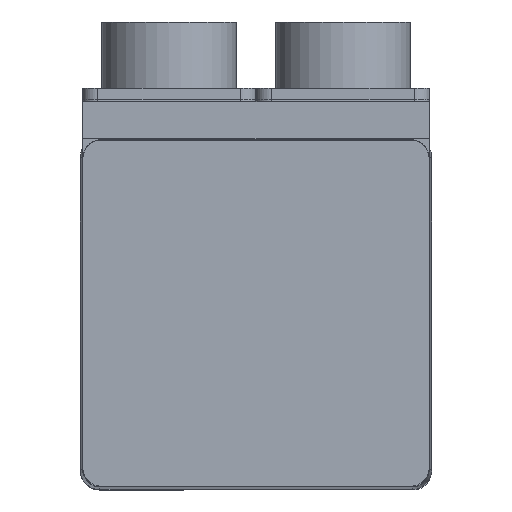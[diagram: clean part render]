
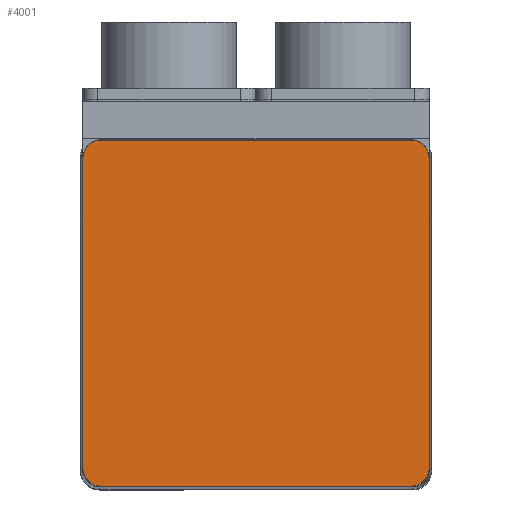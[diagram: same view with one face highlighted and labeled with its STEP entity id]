
A CAD part, top view. The second image highlights one B-rep face of the part: STEP entity #4001.
In plain terms, the highlighted planar face has unit normal (0, 0, 1).
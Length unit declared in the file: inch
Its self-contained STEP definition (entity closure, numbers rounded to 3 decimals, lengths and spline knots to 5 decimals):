
#3899=CARTESIAN_POINT('',(-1.0055,-1.125,5.636));
#3900=VERTEX_POINT('',#3899);
#3901=CARTESIAN_POINT('',(-1.125,-1.0055,5.636));
#3902=VERTEX_POINT('',#3901);
#3903=CARTESIAN_POINT('',(-1.0055,-1.0055,5.636));
#3904=DIRECTION('',(0.0,0.0,-1.));
#3905=DIRECTION('',(-0.707,-0.707,0.0));
#3906=AXIS2_PLACEMENT_3D('',#3903,#3904,#3905);
#3907=CIRCLE('',#3906,0.1195);
#3908=EDGE_CURVE('',#3900,#3902,#3907,.T.);
#3936=CARTESIAN_POINT('',(0.,0.,5.636));
#3937=DIRECTION('',(0.0,0.0,1.0));
#3938=DIRECTION('',(1.0,0.0,0.0));
#3939=AXIS2_PLACEMENT_3D('',#3936,#3937,#3938);
#3940=PLANE('',#3939);
#3941=ORIENTED_EDGE('',*,*,#3908,.F.);
#3942=CARTESIAN_POINT('',(1.0055,-1.125,5.636));
#3943=VERTEX_POINT('',#3942);
#3944=CARTESIAN_POINT('',(1.0055,-1.125,5.636));
#3945=DIRECTION('',(-1.0,0.0,0.0));
#3946=VECTOR('',#3945,2.011);
#3947=LINE('',#3944,#3946);
#3948=EDGE_CURVE('',#3943,#3900,#3947,.T.);
#3949=ORIENTED_EDGE('',*,*,#3948,.F.);
#3950=CARTESIAN_POINT('',(1.125,-1.0055,5.636));
#3951=VERTEX_POINT('',#3950);
#3952=CARTESIAN_POINT('',(1.0055,-1.0055,5.636));
#3953=DIRECTION('',(0.0,0.0,-1.));
#3954=DIRECTION('',(0.707,-0.707,0.0));
#3955=AXIS2_PLACEMENT_3D('',#3952,#3953,#3954);
#3956=CIRCLE('',#3955,0.1195);
#3957=EDGE_CURVE('',#3951,#3943,#3956,.T.);
#3958=ORIENTED_EDGE('',*,*,#3957,.F.);
#3959=CARTESIAN_POINT('',(1.125,1.0055,5.636));
#3960=VERTEX_POINT('',#3959);
#3961=CARTESIAN_POINT('',(1.125,1.0055,5.636));
#3962=DIRECTION('',(0.0,-1.0,0.0));
#3963=VECTOR('',#3962,2.011);
#3964=LINE('',#3961,#3963);
#3965=EDGE_CURVE('',#3960,#3951,#3964,.T.);
#3966=ORIENTED_EDGE('',*,*,#3965,.F.);
#3967=CARTESIAN_POINT('',(1.0055,1.125,5.636));
#3968=VERTEX_POINT('',#3967);
#3969=CARTESIAN_POINT('',(1.0055,1.0055,5.636));
#3970=DIRECTION('',(0.0,0.0,-1.));
#3971=DIRECTION('',(0.707,0.707,0.0));
#3972=AXIS2_PLACEMENT_3D('',#3969,#3970,#3971);
#3973=CIRCLE('',#3972,0.1195);
#3974=EDGE_CURVE('',#3968,#3960,#3973,.T.);
#3975=ORIENTED_EDGE('',*,*,#3974,.F.);
#3976=CARTESIAN_POINT('',(-1.0055,1.125,5.636));
#3977=VERTEX_POINT('',#3976);
#3978=CARTESIAN_POINT('',(-1.0055,1.125,5.636));
#3979=DIRECTION('',(1.0,0.0,0.0));
#3980=VECTOR('',#3979,2.011);
#3981=LINE('',#3978,#3980);
#3982=EDGE_CURVE('',#3977,#3968,#3981,.T.);
#3983=ORIENTED_EDGE('',*,*,#3982,.F.);
#3984=CARTESIAN_POINT('',(-1.125,1.0055,5.636));
#3985=VERTEX_POINT('',#3984);
#3986=CARTESIAN_POINT('',(-1.0055,1.0055,5.636));
#3987=DIRECTION('',(0.0,0.0,-1.));
#3988=DIRECTION('',(-0.707,0.707,0.0));
#3989=AXIS2_PLACEMENT_3D('',#3986,#3987,#3988);
#3990=CIRCLE('',#3989,0.1195);
#3991=EDGE_CURVE('',#3985,#3977,#3990,.T.);
#3992=ORIENTED_EDGE('',*,*,#3991,.F.);
#3993=CARTESIAN_POINT('',(-1.125,-1.0055,5.636));
#3994=DIRECTION('',(0.0,1.0,0.0));
#3995=VECTOR('',#3994,2.011);
#3996=LINE('',#3993,#3995);
#3997=EDGE_CURVE('',#3902,#3985,#3996,.T.);
#3998=ORIENTED_EDGE('',*,*,#3997,.F.);
#3999=EDGE_LOOP('',(#3941,#3949,#3958,#3966,#3975,#3983,#3992,#3998));
#4000=FACE_OUTER_BOUND('',#3999,.T.);
#4001=ADVANCED_FACE('',(#4000),#3940,.T.);
